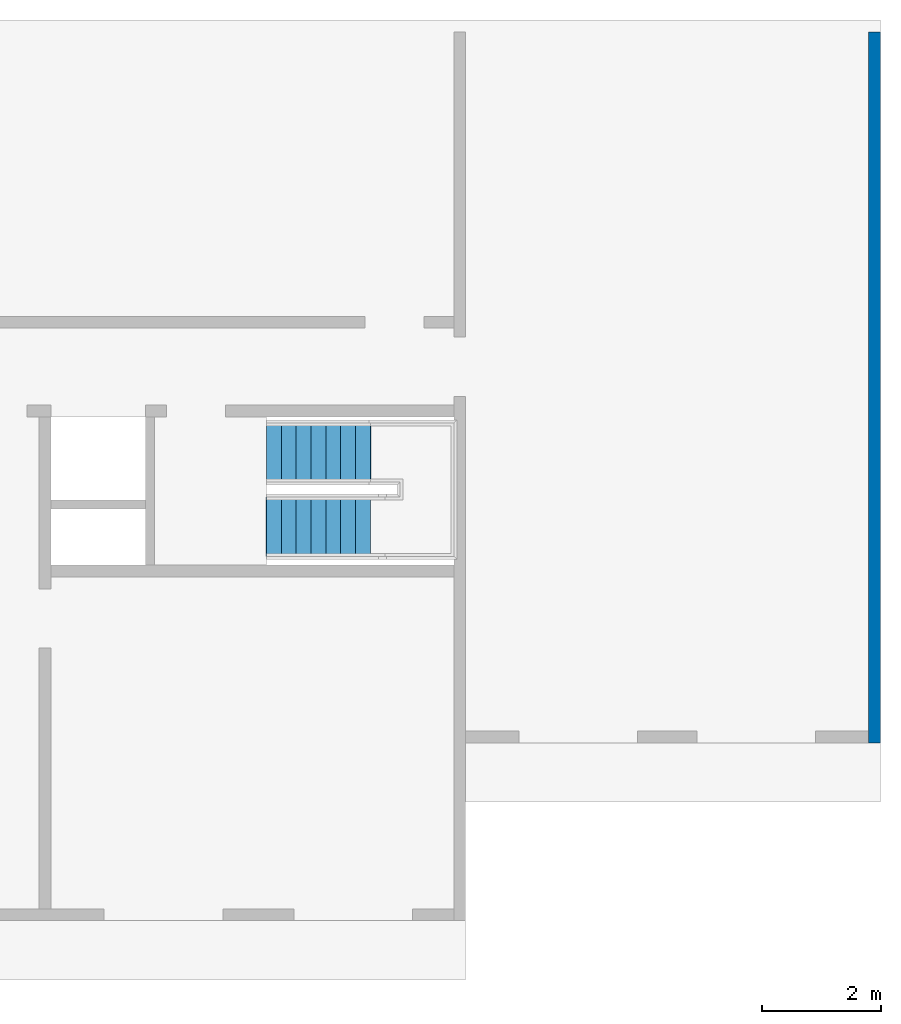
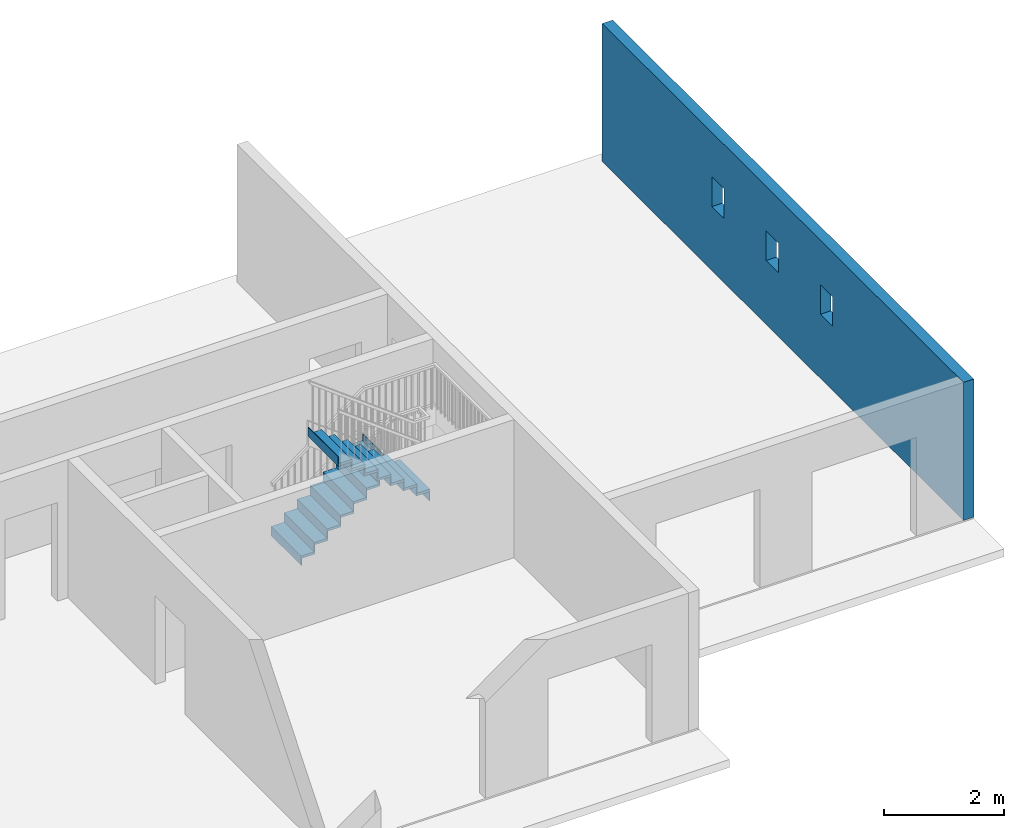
# One storey, part 2 of 3: 2 stair flights, 1 wall, 3 openings, 1 element without a shape of its own.
"""IFC2X3 building model written with IfcOpenShell, lengths in metres."""

from ifc_helpers import new_model, entity, si_unit, converted_unit, derived_unit, direction, frame, frame_2d, origin, origin_2d_with_axis, place, context, subcontext, project, spatial, rectangle, extrude, material, layer, layer_set, layer_usage, type_object, element, aggregate, save


model = new_model("IFC2X3")

# Units and contexts
model_context = context("Model", 3, precision=1e-05, world=origin(), true_north=direction((6.12303176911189e-17, 1.0)))
body_context = subcontext(model_context, "Body", "Model", "MODEL_VIEW")
ifc_project = project(units=[si_unit("LENGTHUNIT", "METRE"), si_unit("AREAUNIT", "SQUARE_METRE"), si_unit("VOLUMEUNIT", "CUBIC_METRE"), converted_unit("PLANEANGLEUNIT", "DEGREE", entity("IfcRatioMeasure", 0.0174532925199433), si_unit("PLANEANGLEUNIT", "RADIAN"), dimensions=[0, 0, 0, 0, 0, 0, 0]), si_unit("MASSUNIT", "GRAM", prefix="KILO"), derived_unit("MASSDENSITYUNIT", [(si_unit("MASSUNIT", "GRAM", prefix="KILO"), 1), (si_unit("LENGTHUNIT", "METRE"), -3)]), si_unit("TIMEUNIT", "SECOND"), si_unit("FREQUENCYUNIT", "HERTZ"), si_unit("THERMODYNAMICTEMPERATUREUNIT", "DEGREE_CELSIUS"), derived_unit("THERMALTRANSMITTANCEUNIT", [(si_unit("MASSUNIT", "GRAM", prefix="KILO"), 1), (si_unit("THERMODYNAMICTEMPERATUREUNIT", "KELVIN"), -1), (si_unit("TIMEUNIT", "SECOND"), -3)]), derived_unit("VOLUMETRICFLOWRATEUNIT", [(si_unit("LENGTHUNIT", "METRE"), 3), (si_unit("TIMEUNIT", "SECOND"), -1)]), si_unit("ELECTRICCURRENTUNIT", "AMPERE"), si_unit("ELECTRICVOLTAGEUNIT", "VOLT"), si_unit("POWERUNIT", "WATT"), si_unit("FORCEUNIT", "NEWTON"), si_unit("ILLUMINANCEUNIT", "LUX"), si_unit("LUMINOUSFLUXUNIT", "LUMEN"), si_unit("LUMINOUSINTENSITYUNIT", "CANDELA"), derived_unit("USERDEFINED", [(si_unit("MASSUNIT", "GRAM", prefix="KILO"), -1), (si_unit("LENGTHUNIT", "METRE"), -2), (si_unit("TIMEUNIT", "SECOND"), 3), (si_unit("LUMINOUSFLUXUNIT", "LUMEN"), 1)]), derived_unit("LINEARVELOCITYUNIT", [(si_unit("LENGTHUNIT", "METRE"), 1), (si_unit("TIMEUNIT", "SECOND"), -1)]), si_unit("PRESSUREUNIT", "PASCAL"), derived_unit("USERDEFINED", [(si_unit("LENGTHUNIT", "METRE"), -2), (si_unit("MASSUNIT", "GRAM", prefix="KILO"), 1), (si_unit("TIMEUNIT", "SECOND"), -2)])], contexts=[model_context])

# Site, building, storey
site_placement = place(None, origin())
site = spatial("IfcSite", under=ifc_project, at=site_placement, Name="Default", CompositionType="ELEMENT")
building_placement = place(site_placement, origin())
building = spatial("IfcBuilding", under=site, at=building_placement, CompositionType="ELEMENT")
storey_placement = place(building_placement, frame((0.0, 0.0, 6.0)))
storey = spatial("IfcBuildingStorey", under=building, at=storey_placement, Name="R+2", CompositionType="ELEMENT", Elevation=5.99999999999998)

# Wall, openings
ifc_material = material(Name="Béton - Coulé sur place - Béton20")
ifc_layer = layer(ifc_material, 0.2)
ifc_layer_set = layer_set([ifc_layer], Name="Mur de base:Générique - 200 mm")
ifc_layer_usage = layer_usage(ifc_layer_set, "AXIS2", "NEGATIVE", 0.1)
wall_type = type_object("IfcWallType", Name="Mur de base:Générique - 200 mm", PredefinedType="STANDARD", material=ifc_layer_set)
wall_placement = place(storey_placement, frame((15.7926639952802, 8.86181014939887, 0.200000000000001), z_axis=(0.0, 0.0, 1.0), x_axis=(0.0, -1.0, 0.0)))
wall = element("IfcWallStandardCase", 1, at=wall_placement, inside=storey, type_object=wall_type, material=ifc_layer_usage, Name="Mur de base:Générique - 200 mm", ObjectType="Mur de base:Générique - 200 mm:1044", context=body_context, shape_type="SweptSolid", body=[
    extrude(rectangle(XDim=12.0, YDim=0.200000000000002, at=frame_2d((6.0, 0.0), x_axis=(-1.0, 0.0))), origin(), (0.0, 0.0, 1.0), 2.80000000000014),
])
opening_1_placement = place(wall_placement, frame((8.86181014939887, -15.7926639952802, -0.200000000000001), z_axis=(0.0, 0.0, 1.0), x_axis=(0.0, 1.0, 0.0)))
element("IfcOpeningElement", 2, at=opening_1_placement, cuts=wall, Name="Mur de base:Générique - 200 mm", ObjectType="Opening", context=body_context, shape_type="SweptSolid", body=[
    extrude(rectangle(XDim=0.6, YDim=0.4, at=frame_2d((0.0, 1.08246744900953e-15), x_axis=(0.0, 1.0))), frame((14.1686639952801, 3.21181014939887, 1.8), z_axis=(1.0, 0.0, 0.0), x_axis=(0.0, -1.0, 0.0)), (0.0, 0.0, 1.0), 3.048),
])
opening_2_placement = place(wall_placement, frame((8.86181014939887, -15.7926639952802, -0.200000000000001), z_axis=(0.0, 0.0, 1.0), x_axis=(0.0, 1.0, 0.0)))
element("IfcOpeningElement", 3, at=opening_2_placement, cuts=wall, Name="Mur de base:Générique - 200 mm", ObjectType="Opening", context=body_context, shape_type="SweptSolid", body=[
    extrude(rectangle(XDim=0.6, YDim=0.400000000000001, at=frame_2d((-8.04911692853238e-16, 1.08246744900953e-15), x_axis=(0.0, 1.0))), frame((14.1686639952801, 5.01181014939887, 1.8), z_axis=(1.0, 0.0, 0.0), x_axis=(0.0, -1.0, 0.0)), (0.0, 0.0, 1.0), 3.048),
])
opening_3_placement = place(wall_placement, frame((8.86181014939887, -15.7926639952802, -0.200000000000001), z_axis=(0.0, 0.0, 1.0), x_axis=(0.0, 1.0, 0.0)))
element("IfcOpeningElement", 4, at=opening_3_placement, cuts=wall, Name="Mur de base:Générique - 200 mm", ObjectType="Opening", context=body_context, shape_type="SweptSolid", body=[
    extrude(rectangle(XDim=0.6, YDim=0.4, at=frame_2d((-6.93889390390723e-17, 1.08246744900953e-15), x_axis=(0.0, 1.0))), frame((14.1686639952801, 1.41181014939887, 1.8), z_axis=(1.0, 0.0, 0.0), x_axis=(0.0, -1.0, 0.0)), (0.0, 0.0, 1.0), 3.048),
])

# Stair, stair flights
stair_placement = place(storey_placement, origin())
stair = element("IfcStair", 5, at=stair_placement, inside=storey, Name="Escalier assemblé:Escalier", ObjectType="Escalier assemblé:Contremarche 190 mm max marche 250\xa0mm", ShapeType="NOTDEFINED")
stair_flight_1_placement = place(stair_placement, origin())
stair_flight_1 = element("IfcStairFlight", 6, at=stair_flight_1_placement, Name="Escalier assemblé:Escalier:468124 Run 1", ObjectType="Escalier assemblé:Contremarche 190 mm max marche 250\xa0mm", NumberOfRiser=8, NumberOfTreads=7, RiserHeight=0.617569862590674, TreadLength=0.820209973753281, context=body_context, shape_type="SweptSolid", body=[
    extrude(rectangle(XDim=1.0, YDim=0.0125000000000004, at=frame_2d((0.0, -5.41233724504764e-16), x_axis=(1.0, 0.0))), frame((5.53891399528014, 1.76181014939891, 0.176470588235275), z_axis=(0.0, 0.0, 1.0), x_axis=(0.0, 1.0, 0.0)), (0.0, 0.0, 1.0), 0.138235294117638),
    extrude(rectangle(XDim=0.249999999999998, YDim=1.0, at=frame_2d((-5.41233724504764e-16, 1.66533453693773e-16), x_axis=(1.0, 0.0))), frame((5.65766399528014, 1.76181014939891, 0.314705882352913), z_axis=(0.0, 0.0, 1.0), x_axis=(-1.0, 0.0, 0.0)), (0.0, 0.0, 1.0), 0.0499999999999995),
    extrude(rectangle(XDim=1.0, YDim=0.0125000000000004, at=frame_2d((0.0, -5.41233724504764e-16), x_axis=(1.0, 0.0))), frame((5.78891399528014, 1.76181014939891, 0.314705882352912), z_axis=(0.0, 0.0, 1.0), x_axis=(0.0, 1.0, 0.0)), (0.0, 0.0, 1.0), 0.188235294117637),
    extrude(rectangle(XDim=0.250000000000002, YDim=1.0, at=frame_2d((0.0, 1.66533453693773e-16), x_axis=(1.0, 0.0))), frame((5.90766399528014, 1.76181014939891, 0.502941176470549), z_axis=(0.0, 0.0, 1.0), x_axis=(-1.0, 0.0, 0.0)), (0.0, 0.0, 1.0), 0.0499999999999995),
    extrude(rectangle(XDim=1.0, YDim=0.0125000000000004, at=frame_2d((0.0, -5.41233724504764e-16), x_axis=(1.0, 0.0))), frame((6.03891399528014, 1.76181014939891, 0.50294117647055), z_axis=(0.0, 0.0, 1.0), x_axis=(0.0, 1.0, 0.0)), (0.0, 0.0, 1.0), 0.188235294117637),
    extrude(rectangle(XDim=0.250000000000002, YDim=1.0, at=frame_2d((0.0, -1.66533453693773e-16), x_axis=(1.0, 0.0))), frame((6.15766399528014, 1.76181014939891, 0.691176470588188), z_axis=(0.0, 0.0, 1.0), x_axis=(-1.0, 0.0, 0.0)), (0.0, 0.0, 1.0), 0.0499999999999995),
    extrude(rectangle(XDim=1.0, YDim=0.0125000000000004, at=frame_2d((0.0, -5.41233724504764e-16), x_axis=(1.0, 0.0))), frame((6.28891399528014, 1.7618101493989, 0.691176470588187), z_axis=(0.0, 0.0, 1.0), x_axis=(0.0, 1.0, 0.0)), (0.0, 0.0, 1.0), 0.188235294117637),
    extrude(rectangle(XDim=0.250000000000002, YDim=1.0, at=frame_2d((0.0, 1.66533453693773e-16), x_axis=(1.0, 0.0))), frame((6.40766399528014, 1.7618101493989, 0.879411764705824), z_axis=(0.0, 0.0, 1.0), x_axis=(-1.0, 0.0, 0.0)), (0.0, 0.0, 1.0), 0.0499999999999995),
    extrude(rectangle(XDim=1.0, YDim=0.0125000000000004, at=frame_2d((0.0, -5.41233724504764e-16), x_axis=(1.0, 0.0))), frame((6.53891399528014, 1.7618101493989, 0.879411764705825), z_axis=(0.0, 0.0, 1.0), x_axis=(0.0, 1.0, 0.0)), (0.0, 0.0, 1.0), 0.188235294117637),
    extrude(rectangle(XDim=0.250000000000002, YDim=1.0, at=frame_2d((0.0, -1.66533453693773e-16), x_axis=(1.0, 0.0))), frame((6.65766399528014, 1.7618101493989, 1.06764705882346), z_axis=(0.0, 0.0, 1.0), x_axis=(-1.0, 0.0, 0.0)), (0.0, 0.0, 1.0), 0.0499999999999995),
    extrude(rectangle(XDim=1.0, YDim=0.0125000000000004, at=frame_2d((0.0, 5.41233724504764e-16), x_axis=(1.0, 0.0))), frame((6.78891399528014, 1.7618101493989, 1.06764705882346), z_axis=(0.0, 0.0, 1.0), x_axis=(0.0, 1.0, 0.0)), (0.0, 0.0, 1.0), 0.188235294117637),
    extrude(rectangle(XDim=0.250000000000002, YDim=1.0, at=frame_2d((0.0, 1.66533453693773e-16), x_axis=(1.0, 0.0))), frame((6.90766399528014, 1.7618101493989, 1.2558823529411), z_axis=(0.0, 0.0, 1.0), x_axis=(-1.0, 0.0, 0.0)), (0.0, 0.0, 1.0), 0.0499999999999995),
    extrude(rectangle(XDim=1.0, YDim=0.0125000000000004, at=frame_2d((0.0, -5.41233724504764e-16), x_axis=(1.0, 0.0))), frame((7.03891399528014, 1.7618101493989, 1.2558823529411), z_axis=(0.0, 0.0, 1.0), x_axis=(0.0, 1.0, 0.0)), (0.0, 0.0, 1.0), 0.188235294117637),
    extrude(rectangle(XDim=0.250000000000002, YDim=1.0, at=frame_2d((-1.08246744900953e-15, -1.66533453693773e-16), x_axis=(1.0, 0.0))), frame((7.15766399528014, 1.7618101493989, 1.44411764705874), z_axis=(0.0, 0.0, 1.0), x_axis=(-1.0, 0.0, 0.0)), (0.0, 0.0, 1.0), 0.0499999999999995),
    extrude(rectangle(XDim=1.0, YDim=0.0125000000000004, at=origin_2d_with_axis()), frame((7.28891399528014, 1.7618101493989, 1.44411764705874), z_axis=(0.0, 0.0, 1.0), x_axis=(0.0, 1.0, 0.0)), (0.0, 0.0, 1.0), 0.188235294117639),
])
stair_flight_2_placement = place(stair_placement, origin())
stair_flight_2 = element("IfcStairFlight", 7, at=stair_flight_2_placement, Name="Escalier assemblé:Escalier:468124 Run 2", ObjectType="Escalier assemblé:Contremarche 190 mm max marche 250\xa0mm", NumberOfRiser=8, NumberOfTreads=7, RiserHeight=0.617569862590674, TreadLength=0.820209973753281, context=body_context, shape_type="SweptSolid", body=[
    extrude(rectangle(XDim=1.0, YDim=0.0125000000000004, at=frame_2d((0.0, -1.08290112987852e-15), x_axis=(1.0, 0.0))), frame((7.27641399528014, 0.511810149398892, 1.63235294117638), z_axis=(0.0, 0.0, 1.0), x_axis=(0.0, -1.0, 0.0)), (0.0, 0.0, 1.0), 0.188235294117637),
    extrude(rectangle(XDim=0.249999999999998, YDim=1.0, at=frame_2d((5.41233724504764e-16, -2.77555756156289e-17), x_axis=(1.0, 0.0))), frame((7.15766399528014, 0.511810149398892, 1.82058823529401)), (0.0, 0.0, 1.0), 0.0499999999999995),
    extrude(rectangle(XDim=1.0, YDim=0.0125000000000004, at=origin_2d_with_axis()), frame((7.02641399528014, 0.511810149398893, 1.82058823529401), z_axis=(0.0, 0.0, 1.0), x_axis=(0.0, -1.0, 0.0)), (0.0, 0.0, 1.0), 0.188235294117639),
    extrude(rectangle(XDim=0.250000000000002, YDim=1.0, at=frame_2d((5.41233724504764e-16, -2.77555756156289e-17), x_axis=(1.0, 0.0))), frame((6.90766399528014, 0.511810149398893, 2.00882352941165)), (0.0, 0.0, 1.0), 0.0499999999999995),
    extrude(rectangle(XDim=1.0, YDim=0.0125000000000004, at=frame_2d((0.0, 1.08290112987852e-15), x_axis=(1.0, 0.0))), frame((6.77641399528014, 0.511810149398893, 2.00882352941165), z_axis=(0.0, 0.0, 1.0), x_axis=(0.0, -1.0, 0.0)), (0.0, 0.0, 1.0), 0.188235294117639),
    extrude(rectangle(XDim=0.250000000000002, YDim=1.0, at=frame_2d((-5.41233724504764e-16, 2.77555756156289e-17), x_axis=(1.0, 0.0))), frame((6.65766399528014, 0.511810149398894, 2.19705882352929)), (0.0, 0.0, 1.0), 0.0499999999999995),
    extrude(rectangle(XDim=1.0, YDim=0.0125000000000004, at=origin_2d_with_axis()), frame((6.52641399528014, 0.511810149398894, 2.19705882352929), z_axis=(0.0, 0.0, 1.0), x_axis=(0.0, -1.0, 0.0)), (0.0, 0.0, 1.0), 0.188235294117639),
    extrude(rectangle(XDim=0.250000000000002, YDim=1.0, at=frame_2d((-5.41233724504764e-16, 2.77555756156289e-17), x_axis=(1.0, 0.0))), frame((6.40766399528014, 0.511810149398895, 2.38529411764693)), (0.0, 0.0, 1.0), 0.0499999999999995),
    extrude(rectangle(XDim=1.0, YDim=0.0125000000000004, at=origin_2d_with_axis()), frame((6.27641399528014, 0.511810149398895, 2.38529411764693), z_axis=(0.0, 0.0, 1.0), x_axis=(0.0, -1.0, 0.0)), (0.0, 0.0, 1.0), 0.188235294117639),
    extrude(rectangle(XDim=0.250000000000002, YDim=1.0, at=frame_2d((-5.41233724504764e-16, 2.77555756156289e-17), x_axis=(1.0, 0.0))), frame((6.15766399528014, 0.511810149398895, 2.57352941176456)), (0.0, 0.0, 1.0), 0.0499999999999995),
    extrude(rectangle(XDim=1.0, YDim=0.0125000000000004, at=origin_2d_with_axis()), frame((6.02641399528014, 0.511810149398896, 2.57352941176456), z_axis=(0.0, 0.0, 1.0), x_axis=(0.0, -1.0, 0.0)), (0.0, 0.0, 1.0), 0.188235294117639),
    extrude(rectangle(XDim=0.250000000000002, YDim=1.0, at=frame_2d((-5.41233724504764e-16, 0.0), x_axis=(1.0, 0.0))), frame((5.90766399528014, 0.511810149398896, 2.7617647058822)), (0.0, 0.0, 1.0), 0.0499999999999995),
    extrude(rectangle(XDim=1.0, YDim=0.0125000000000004, at=origin_2d_with_axis()), frame((5.77641399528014, 0.511810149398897, 2.7617647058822), z_axis=(0.0, 0.0, 1.0), x_axis=(0.0, -1.0, 0.0)), (0.0, 0.0, 1.0), 0.188235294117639),
    extrude(rectangle(XDim=0.250000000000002, YDim=1.0, at=frame_2d((-5.41233724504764e-16, 0.0), x_axis=(1.0, 0.0))), frame((5.65766399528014, 0.511810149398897, 2.94999999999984)), (0.0, 0.0, 1.0), 0.0499999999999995),
    extrude(rectangle(XDim=1.0, YDim=0.0125000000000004, at=frame_2d((0.0, -1.08290112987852e-15), x_axis=(1.0, 0.0))), frame((5.52641399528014, 0.511810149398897, 2.94999999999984), z_axis=(0.0, 0.0, 1.0), x_axis=(0.0, -1.0, 0.0)), (0.0, 0.0, 1.0), 0.188235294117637),
])
aggregate(stair, [stair_flight_1, stair_flight_2])

save(model, "model.ifc")
